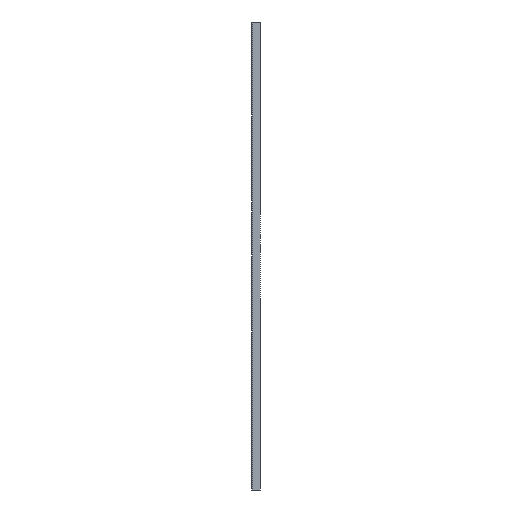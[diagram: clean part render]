
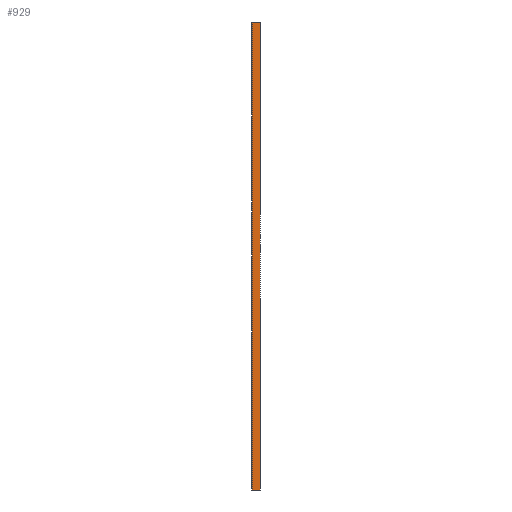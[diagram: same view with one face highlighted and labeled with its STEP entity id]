
A CAD part, left-side view. The second image highlights one B-rep face of the part: STEP entity #929.
In plain terms, the highlighted planar face has unit normal (-1, 0, 0).
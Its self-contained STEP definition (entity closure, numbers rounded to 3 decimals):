
#11 = CARTESIAN_POINT ( 'NONE',  ( -501.5, -20., 150. ) ) ;
#15 = DIRECTION ( 'NONE',  ( 0., 0., 1. ) ) ;
#46 = AXIS2_PLACEMENT_3D ( 'NONE', #1047, #780, #15 ) ;
#56 = DIRECTION ( 'NONE',  ( 0., 1., 0. ) ) ;
#79 = VERTEX_POINT ( 'NONE', #1119 ) ;
#85 = EDGE_CURVE ( 'NONE', #671, #841, #856, .T. ) ;
#146 = EDGE_LOOP ( 'NONE', ( #1127, #242, #605, #237 ) ) ;
#237 = ORIENTED_EDGE ( 'NONE', *, *, #85, .T. ) ;
#242 = ORIENTED_EDGE ( 'NONE', *, *, #717, .F. ) ;
#262 = DIRECTION ( 'NONE',  ( 0., 0., 1. ) ) ;
#285 = CARTESIAN_POINT ( 'NONE',  ( -501.5, 0., 150. ) ) ;
#343 = EDGE_CURVE ( 'NONE', #1056, #671, #1033, .T. ) ;
#362 = LINE ( 'NONE', #617, #440 ) ;
#371 = LINE ( 'NONE', #972, #1055 ) ;
#431 = FACE_OUTER_BOUND ( 'NONE', #146, .T. ) ;
#440 = VECTOR ( 'NONE', #875, 1000. ) ;
#465 = VECTOR ( 'NONE', #56, 1000. ) ;
#477 = VECTOR ( 'NONE', #670, 1000. ) ;
#605 = ORIENTED_EDGE ( 'NONE', *, *, #343, .T. ) ;
#617 = CARTESIAN_POINT ( 'NONE',  ( -501.5, -20., -950. ) ) ;
#670 = DIRECTION ( 'NONE',  ( 0., 0., 1. ) ) ;
#671 = VERTEX_POINT ( 'NONE', #11 ) ;
#705 = EDGE_CURVE ( 'NONE', #79, #841, #371, .T. ) ;
#717 = EDGE_CURVE ( 'NONE', #1056, #79, #362, .T. ) ;
#780 = DIRECTION ( 'NONE',  ( -1., 0., 0. ) ) ;
#793 = PLANE ( 'NONE',  #46 ) ;
#841 = VERTEX_POINT ( 'NONE', #285 ) ;
#856 = LINE ( 'NONE', #1031, #465 ) ;
#875 = DIRECTION ( 'NONE',  ( 0., 1., 0. ) ) ;
#929 = ADVANCED_FACE ( 'NONE', ( #431 ), #793, .T. ) ;
#955 = CARTESIAN_POINT ( 'NONE',  ( -501.5, -20., -950. ) ) ;
#972 = CARTESIAN_POINT ( 'NONE',  ( -501.5, 0., -950. ) ) ;
#979 = CARTESIAN_POINT ( 'NONE',  ( -501.5, -20., -950. ) ) ;
#1031 = CARTESIAN_POINT ( 'NONE',  ( -501.5, -20., 150. ) ) ;
#1033 = LINE ( 'NONE', #955, #477 ) ;
#1047 = CARTESIAN_POINT ( 'NONE',  ( -501.5, -20., -950. ) ) ;
#1055 = VECTOR ( 'NONE', #262, 1000. ) ;
#1056 = VERTEX_POINT ( 'NONE', #979 ) ;
#1119 = CARTESIAN_POINT ( 'NONE',  ( -501.5, 0., -950. ) ) ;
#1127 = ORIENTED_EDGE ( 'NONE', *, *, #705, .F. ) ;
